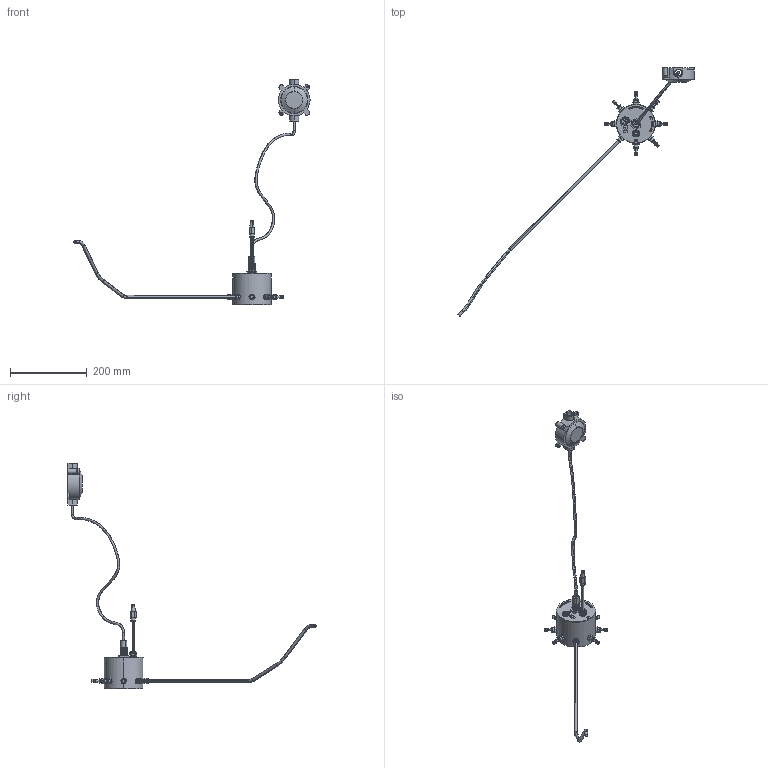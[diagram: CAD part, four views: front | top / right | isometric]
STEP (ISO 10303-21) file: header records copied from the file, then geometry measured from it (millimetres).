
FILE_DESCRIPTION (( 'STEP AP203' ), '1' );
FILE_NAME ('KP_315LD.step', '2011-08-08T11:48:12', ( '' ), ( '' ), 'SwSTEP 2.0', 'SolidWorks 2011', '' );
FILE_SCHEMA (( 'CONFIG_CONTROL_DESIGN' ));
Products named in the file (1): KP_315LD
Bounding box: 615.1 x 646.12 x 588.66 mm (x, y, z)
Volume: 714541.2 mm3; surface area: 165183.3 mm2
Topology: 10 solids, 23 shells, 2197 faces, 5875 edges, 3861 vertices
Faces by surface type: plane 1281, cylinder 352, cone 286, bspline 240, torus 30, sphere 8
Entity records: 110351 total; most frequent: CARTESIAN_POINT 58485, ORIENTED_EDGE 11718, DIRECTION 9328, EDGE_CURVE 5859, VERTEX_POINT 3861, LINE 3256, VECTOR 3256, AXIS2_PLACEMENT_3D 3036
